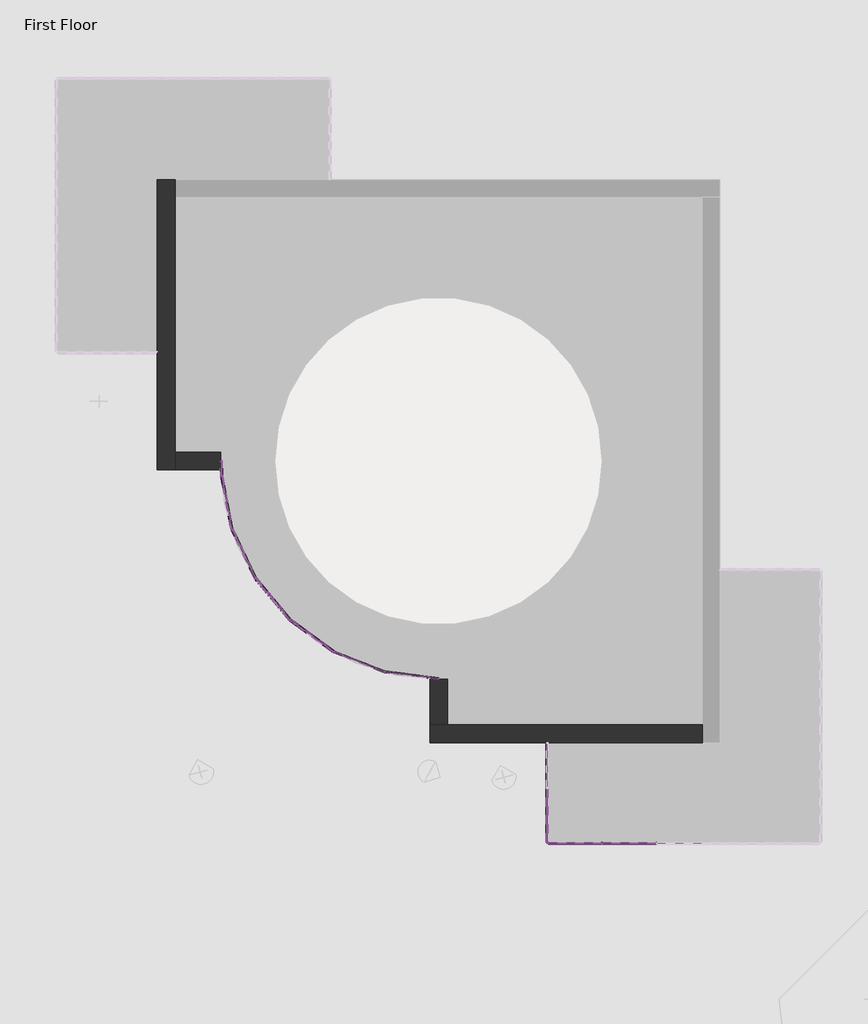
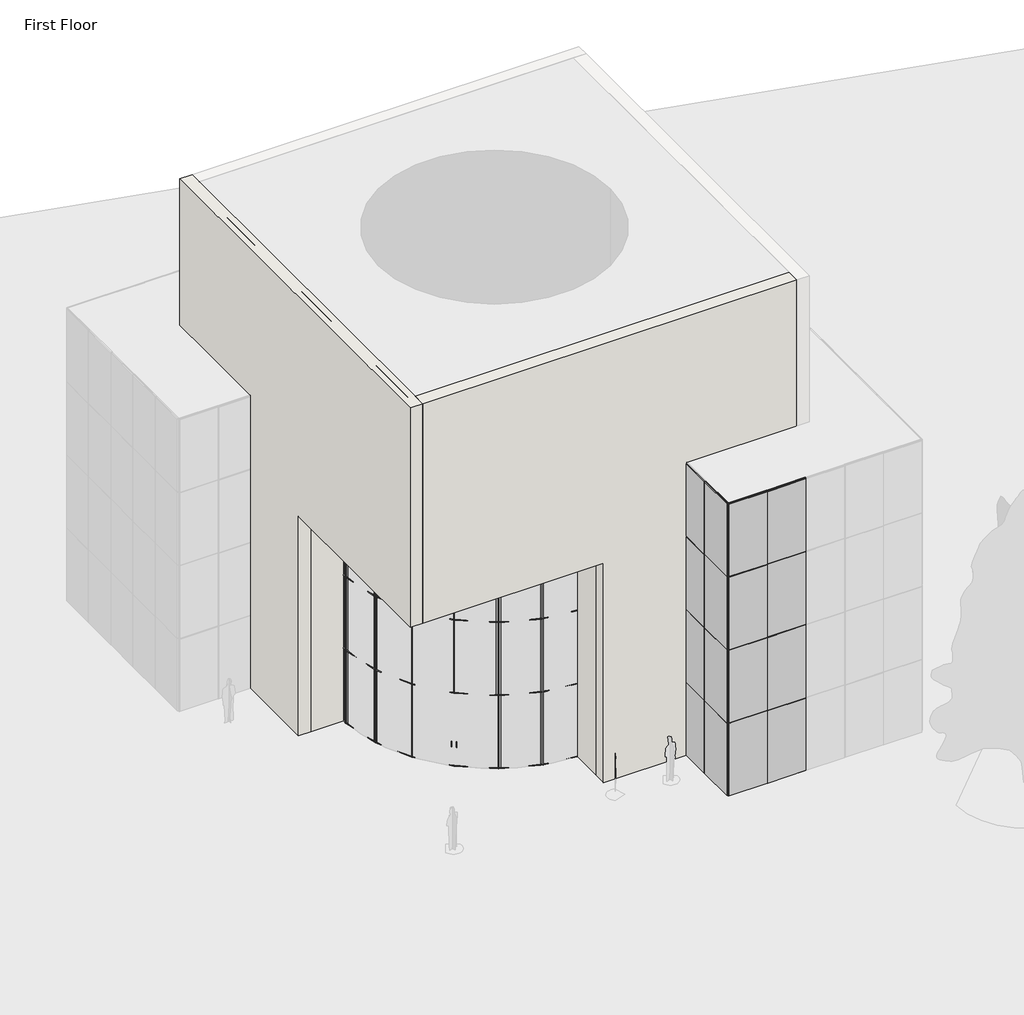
# One storey, part 1 of 4: 73 members, 37 plates, 4 walls.
"""IFC4 building model written with IfcOpenShell, lengths in millimetres."""

from ifc_helpers import new_model, si_unit, origin, origin_with_axes, place, context, project, spatial, polyline, outline, extrude, faceted_brep, transform, mapped, element, save
from components import member_5e617a80, member_74941792, member_cbdb9076, member_7e523723, member_9fd3d903, member_6604d1e0, member_427ea564, member_dc7d8ed0, member_50c0a876, member_f831c101, member_4ce38149, member_fef64646, member_b90b2622, member_80103e86, member_985bfe06, member_dfe62b7a, member_7f371842, curtain_wall_sgl_glass_curtain_wall_sgl_glass_fca7f741, curtain_wall_sgl_glass_curtain_wall_sgl_glass_da5bb70a, system_panel_glazed_9b7d687a, system_panel_glazed_9a901b4a, system_panel_glazed_2d5e1d3d, system_panel_glazed_37964ea6, system_panel_glazed_a669fc9f, system_panel_glazed_51c864c8, system_panel_glazed_64ac1428, system_panel_glazed_4997d7a8, system_panel_glazed_95735f45, system_panel_glazed_2762a518, system_panel_glazed_280dc3c4, system_panel_glazed_176abec3, system_panel_glazed_46fdc408

model = new_model("IFC4")

# Units and contexts
model_context = context("Model", 3, world=origin())
ifc_project = project(units=[si_unit("LENGTHUNIT", "METRE", prefix="MILLI")], contexts=[model_context])

# Site, building, storey
site = spatial("IfcSite", under=ifc_project)
building = spatial("IfcBuilding", under=site)
storey = spatial("IfcBuildingStorey", under=building, Name="First Floor", Elevation=0.0)

# Members
placement = place(None, origin())
member_shape = member_5e617a80(model_context)
element("IfcMember", 1, ObjectType="Rectangular Mullion : 1\" Square", at=placement, inside=storey, context=model_context, shape_type="MappedRepresentation", body=[
    mapped(member_shape, transform((2088.1943843, -11353.9860776, 3048.0), x_axis=(0.0, 0.0, 1.0), y_axis=(0.0, -1.0, 0.0), z_axis=(1.0, 0.0, 0.0))),
])
element("IfcMember", 2, ObjectType="Rectangular Mullion : 1\" Square", at=placement, inside=storey, context=model_context, shape_type="MappedRepresentation", body=[
    mapped(member_shape, transform((2088.1943843, -11353.9860776, 6096.0), x_axis=(0.0, 0.0, 1.0), y_axis=(0.0, -1.0, 0.0), z_axis=(1.0, 0.0, 0.0))),
])
element("IfcMember", 3, ObjectType="Rectangular Mullion : 1\" Square", at=placement, inside=storey, context=model_context, shape_type="MappedRepresentation", body=[
    mapped(member_shape, transform((2088.1943843, -11353.9860776, 9144.0), x_axis=(0.0, 0.0, 1.0), y_axis=(0.0, -1.0, 0.0), z_axis=(1.0, 0.0, 0.0))),
])
member_2_shape = member_74941792(model_context)
element("IfcMember", 4, ObjectType="Rectangular Mullion : 1\" Square", at=placement, inside=storey, context=model_context, shape_type="MappedRepresentation", body=[
    mapped(member_2_shape, transform((2088.1943843, -11353.9860776, 12192.0), x_axis=(0.0, 0.0, 1.0), y_axis=(0.0, -1.0, 0.0), z_axis=(1.0, 0.0, 0.0))),
])
member_3_shape = member_cbdb9076(model_context)
element("IfcMember", 5, ObjectType="Rectangular Mullion : 1\" Square", at=placement, inside=storey, context=model_context, shape_type="MappedRepresentation", body=[
    mapped(member_3_shape, transform((576.8943843, -11350.8110776, 3048.0), x_axis=(0.0, -1.0, 0.0), y_axis=(-1.0, 0.0, 0.0), z_axis=(0.0, 0.0, -1.0))),
])
element("IfcMember", 6, ObjectType="Rectangular Mullion : 1\" Square", at=placement, inside=storey, context=model_context, shape_type="MappedRepresentation", body=[
    mapped(member_3_shape, transform((576.8943843, -11350.8110776, 6096.0), x_axis=(0.0, -1.0, 0.0), y_axis=(-1.0, 0.0, 0.0), z_axis=(0.0, 0.0, -1.0))),
])
element("IfcMember", 7, ObjectType="Rectangular Mullion : 1\" Square", at=placement, inside=storey, context=model_context, shape_type="MappedRepresentation", body=[
    mapped(member_3_shape, transform((2100.8943843, -11353.9860776, 3048.0), x_axis=(1.0, 0.0, 0.0), y_axis=(0.0, -1.0, 0.0), z_axis=(0.0, 0.0, -1.0))),
])
element("IfcMember", 8, ObjectType="Rectangular Mullion : 1\" Square", at=placement, inside=storey, context=model_context, shape_type="MappedRepresentation", body=[
    mapped(member_3_shape, transform((2100.8943843, -11353.9860776, 6096.0), x_axis=(1.0, 0.0, 0.0), y_axis=(0.0, -1.0, 0.0), z_axis=(0.0, 0.0, -1.0))),
])
element("IfcMember", 9, ObjectType="Rectangular Mullion : 1\" Square", at=placement, inside=storey, context=model_context, shape_type="MappedRepresentation", body=[
    mapped(member_3_shape, transform((3624.8943843, -11353.9860776, 3048.0), x_axis=(1.0, 0.0, 0.0), y_axis=(0.0, -1.0, 0.0), z_axis=(0.0, 0.0, -1.0))),
])
element("IfcMember", 10, ObjectType="Rectangular Mullion : 1\" Square", at=placement, inside=storey, context=model_context, shape_type="MappedRepresentation", body=[
    mapped(member_3_shape, transform((3624.8943843, -11353.9860776, 6096.0), x_axis=(1.0, 0.0, 0.0), y_axis=(0.0, -1.0, 0.0), z_axis=(0.0, 0.0, -1.0))),
])
element("IfcMember", 11, ObjectType="Rectangular Mullion : 1\" Square", at=placement, inside=storey, context=model_context, shape_type="MappedRepresentation", body=[
    mapped(member_3_shape, transform((-8553.4843812, -1093.2753523, 3048.0), x_axis=(-0.06681254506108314, 0.9977655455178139, 0.0), y_axis=(0.9977655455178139, 0.06681254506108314, 0.0), z_axis=(0.0, 0.0, -1.0))),
])
element("IfcMember", 12, ObjectType="Rectangular Mullion : 1\" Square", at=placement, inside=storey, context=model_context, shape_type="MappedRepresentation", body=[
    mapped(member_3_shape, transform((-8262.3863448, -2589.2158368, 3048.0), x_axis=(-0.3122096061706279, 0.9500132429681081, 0.0), y_axis=(0.9500132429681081, 0.3122096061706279, 0.0), z_axis=(0.0, 0.0, -1.0))),
])
element("IfcMember", 13, ObjectType="Rectangular Mullion : 1\" Square", at=placement, inside=storey, context=model_context, shape_type="MappedRepresentation", body=[
    mapped(member_3_shape, transform((-7609.3332629, -3966.2044614, 3048.0), x_axis=(-0.5380935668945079, 0.8428851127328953, 0.0), y_axis=(0.8428851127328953, 0.5380935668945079, 0.0), z_axis=(0.0, 0.0, -1.0))),
])
element("IfcMember", 14, ObjectType="Rectangular Mullion : 1\" Square", at=placement, inside=storey, context=model_context, shape_type="MappedRepresentation", body=[
    mapped(member_3_shape, transform((-5400.6964346, -6031.8923276, 3048.0), x_axis=(-0.876953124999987, 0.4805759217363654, 0.0), y_axis=(0.4805759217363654, 0.876953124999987, 0.0), z_axis=(0.0, 0.0, -1.0))),
])
element("IfcMember", 15, ObjectType="Rectangular Mullion : 1\" Square", at=placement, inside=storey, context=model_context, shape_type="MappedRepresentation", body=[
    mapped(member_3_shape, transform((-3983.15249, -6591.4860776, 3048.0), x_axis=(-0.9687499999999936, 0.2480391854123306, 0.0), y_axis=(0.2480391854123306, 0.9687499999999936, 0.0), z_axis=(0.0, 0.0, -1.0))),
])
element("IfcMember", 16, ObjectType="Rectangular Mullion : 1\" Square", at=placement, inside=storey, context=model_context, shape_type="MappedRepresentation", body=[
    mapped(member_3_shape, transform((576.8943843, -11350.8110776, 9144.0), x_axis=(0.0, -1.0, 0.0), y_axis=(-1.0, 0.0, 0.0), z_axis=(0.0, 0.0, -1.0))),
])
element("IfcMember", 17, ObjectType="Rectangular Mullion : 1\" Square", at=placement, inside=storey, context=model_context, shape_type="MappedRepresentation", body=[
    mapped(member_3_shape, transform((2100.8943843, -11353.9860776, 9144.0), x_axis=(1.0, 0.0, 0.0), y_axis=(0.0, -1.0, 0.0), z_axis=(0.0, 0.0, -1.0))),
])
element("IfcMember", 18, ObjectType="Rectangular Mullion : 1\" Square", at=placement, inside=storey, context=model_context, shape_type="MappedRepresentation", body=[
    mapped(member_3_shape, transform((3624.8943843, -11353.9860776, 9144.0), x_axis=(1.0, 0.0, 0.0), y_axis=(0.0, -1.0, 0.0), z_axis=(0.0, 0.0, -1.0))),
])
element("IfcMember", 19, ObjectType="Rectangular Mullion : 1\" Square", at=placement, inside=storey, context=model_context, shape_type="MappedRepresentation", body=[
    mapped(member_3_shape, transform((576.8943843, -11350.8110776, 0.0), x_axis=(0.0, -1.0, 0.0), y_axis=(-1.0, 0.0, 0.0), z_axis=(0.0, 0.0, -1.0))),
])
element("IfcMember", 20, ObjectType="Rectangular Mullion : 1\" Square", at=placement, inside=storey, context=model_context, shape_type="MappedRepresentation", body=[
    mapped(member_3_shape, transform((2100.8943843, -11353.9860776, 0.0), x_axis=(1.0, 0.0, 0.0), y_axis=(0.0, -1.0, 0.0), z_axis=(0.0, 0.0, -1.0))),
])
element("IfcMember", 21, ObjectType="Rectangular Mullion : 1\" Square", at=placement, inside=storey, context=model_context, shape_type="MappedRepresentation", body=[
    mapped(member_3_shape, transform((3624.8943843, -11353.9860776, 0.0), x_axis=(1.0, 0.0, 0.0), y_axis=(0.0, -1.0, 0.0), z_axis=(0.0, 0.0, -1.0))),
])
element("IfcMember", 22, ObjectType="Rectangular Mullion : 1\" Square", at=placement, inside=storey, context=model_context, shape_type="MappedRepresentation", body=[
    mapped(member_3_shape, transform((-8553.4843812, -1093.2753523, 0.0), x_axis=(-0.06681254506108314, 0.9977655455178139, 0.0), y_axis=(0.9977655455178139, 0.06681254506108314, 0.0), z_axis=(0.0, 0.0, -1.0))),
])
element("IfcMember", 23, ObjectType="Rectangular Mullion : 1\" Square", at=placement, inside=storey, context=model_context, shape_type="MappedRepresentation", body=[
    mapped(member_3_shape, transform((-8262.3863448, -2589.2158368, 0.0), x_axis=(-0.3122096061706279, 0.9500132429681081, 0.0), y_axis=(0.9500132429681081, 0.3122096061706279, 0.0), z_axis=(0.0, 0.0, -1.0))),
])
element("IfcMember", 24, ObjectType="Rectangular Mullion : 1\" Square", at=placement, inside=storey, context=model_context, shape_type="MappedRepresentation", body=[
    mapped(member_3_shape, transform((-7609.3332629, -3966.2044614, 0.0), x_axis=(-0.5380935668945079, 0.8428851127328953, 0.0), y_axis=(0.8428851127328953, 0.5380935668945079, 0.0), z_axis=(0.0, 0.0, -1.0))),
])
element("IfcMember", 25, ObjectType="Rectangular Mullion : 1\" Square", at=placement, inside=storey, context=model_context, shape_type="MappedRepresentation", body=[
    mapped(member_3_shape, transform((-5400.6964346, -6031.8923276, 0.0), x_axis=(-0.876953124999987, 0.4805759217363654, 0.0), y_axis=(0.4805759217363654, 0.876953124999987, 0.0), z_axis=(0.0, 0.0, -1.0))),
])
element("IfcMember", 26, ObjectType="Rectangular Mullion : 1\" Square", at=placement, inside=storey, context=model_context, shape_type="MappedRepresentation", body=[
    mapped(member_3_shape, transform((-3983.15249, -6591.4860776, 0.0), x_axis=(-0.9687499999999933, 0.24803918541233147, 0.0), y_axis=(0.24803918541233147, 0.9687499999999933, 0.0), z_axis=(0.0, 0.0, -1.0))),
])
element("IfcMember", 27, ObjectType="Rectangular Mullion : 1\" Square", at=placement, inside=storey, context=model_context, shape_type="MappedRepresentation", body=[
    mapped(member_2_shape, transform((602.2943843, -11353.9860776, 0.0), x_axis=(0.0, 0.0, -1.0), y_axis=(0.0, -1.0, 0.0), z_axis=(-1.0, 0.0, 0.0))),
])
member_4_shape = member_7e523723(model_context)
element("IfcMember", 28, ObjectType="Rectangular Mullion : 1\" Square", at=placement, inside=storey, context=model_context, shape_type="MappedRepresentation", body=[
    mapped(member_4_shape, transform((576.8943843, -11353.9860776, 12192.0), x_axis=(-1.0, 0.0, 0.0), y_axis=(0.0, -1.0, 0.0), z_axis=(0.0, 0.0, 1.0))),
])
element("IfcMember", 29, ObjectType="Rectangular Mullion : 1\" Square", at=placement, inside=storey, context=model_context, shape_type="MappedRepresentation", body=[
    mapped(member_4_shape, transform((576.8943843, -11353.9860776, 3048.0), x_axis=(-1.0, 0.0, 0.0), y_axis=(0.0, -1.0, 0.0), z_axis=(0.0, 0.0, 1.0))),
])
element("IfcMember", 30, ObjectType="Rectangular Mullion : 1\" Square", at=placement, inside=storey, context=model_context, shape_type="MappedRepresentation", body=[
    mapped(member_4_shape, transform((576.8943843, -11353.9860776, 6096.0), x_axis=(-1.0, 0.0, 0.0), y_axis=(0.0, -1.0, 0.0), z_axis=(0.0, 0.0, 1.0))),
])
element("IfcMember", 31, ObjectType="Rectangular Mullion : 1\" Square", at=placement, inside=storey, context=model_context, shape_type="MappedRepresentation", body=[
    mapped(member_4_shape, transform((576.8943843, -11353.9860776, 9144.0), x_axis=(-1.0, 0.0, 0.0), y_axis=(0.0, -1.0, 0.0), z_axis=(0.0, 0.0, 1.0))),
])
member_5_shape = member_9fd3d903(model_context)
element("IfcMember", 32, ObjectType="Rectangular Mullion : 1\" Square", at=placement, inside=storey, context=model_context, shape_type="MappedRepresentation", body=[
    mapped(member_5_shape, transform((576.8943843, -11338.1110776, 3048.0), x_axis=(0.0, 0.0, 1.0), y_axis=(-1.0, 0.0, 0.0), z_axis=(0.0, -1.0, 0.0))),
])
element("IfcMember", 33, ObjectType="Rectangular Mullion : 1\" Square", at=placement, inside=storey, context=model_context, shape_type="MappedRepresentation", body=[
    mapped(member_5_shape, transform((576.8943843, -11338.1110776, 6096.0), x_axis=(0.0, 0.0, 1.0), y_axis=(-1.0, 0.0, 0.0), z_axis=(0.0, -1.0, 0.0))),
])
element("IfcMember", 34, ObjectType="Rectangular Mullion : 1\" Square", at=placement, inside=storey, context=model_context, shape_type="MappedRepresentation", body=[
    mapped(member_5_shape, transform((576.8943843, -11338.1110776, 9144.0), x_axis=(0.0, 0.0, 1.0), y_axis=(-1.0, 0.0, 0.0), z_axis=(0.0, -1.0, 0.0))),
])
element("IfcMember", 35, ObjectType="Rectangular Mullion : 1\" Square", at=placement, inside=storey, context=model_context, shape_type="MappedRepresentation", body=[
    mapped(member_5_shape, transform((3612.1943843, -11353.9860776, 3048.0), x_axis=(0.0, 0.0, 1.0), y_axis=(0.0, -1.0, 0.0), z_axis=(1.0, 0.0, 0.0))),
])
element("IfcMember", 36, ObjectType="Rectangular Mullion : 1\" Square", at=placement, inside=storey, context=model_context, shape_type="MappedRepresentation", body=[
    mapped(member_5_shape, transform((3612.1943843, -11353.9860776, 6096.0), x_axis=(0.0, 0.0, 1.0), y_axis=(0.0, -1.0, 0.0), z_axis=(1.0, 0.0, 0.0))),
])
element("IfcMember", 37, ObjectType="Rectangular Mullion : 1\" Square", at=placement, inside=storey, context=model_context, shape_type="MappedRepresentation", body=[
    mapped(member_5_shape, transform((3612.1943843, -11353.9860776, 9144.0), x_axis=(0.0, 0.0, 1.0), y_axis=(0.0, -1.0, 0.0), z_axis=(1.0, 0.0, 0.0))),
])
member_6_shape = member_6604d1e0(model_context)
element("IfcMember", 38, ObjectType="Rectangular Mullion : 1\" Square", at=placement, inside=storey, context=model_context, shape_type="MappedRepresentation", body=[
    mapped(member_6_shape, transform((576.8943843, -11338.1110776, 12192.0), x_axis=(0.0, 0.0, 1.0), y_axis=(-1.0, 0.0, 0.0), z_axis=(0.0, -1.0, 0.0))),
])
element("IfcMember", 39, ObjectType="Rectangular Mullion : 1\" Square", at=placement, inside=storey, context=model_context, shape_type="MappedRepresentation", body=[
    mapped(member_6_shape, transform((3612.1943843, -11353.9860776, 12192.0), x_axis=(0.0, 0.0, 1.0), y_axis=(0.0, -1.0, 0.0), z_axis=(1.0, 0.0, 0.0))),
])
element("IfcMember", 40, ObjectType="Rectangular Mullion : 1\" Square", at=placement, inside=storey, context=model_context, shape_type="MappedRepresentation", body=[
    mapped(member_6_shape, transform((2113.5943843, -11353.9860776, 0.0), x_axis=(0.0, 0.0, -1.0), y_axis=(0.0, -1.0, 0.0), z_axis=(-1.0, 0.0, 0.0))),
])
element("IfcMember", 41, ObjectType="Rectangular Mullion : 1\" Square", at=placement, inside=storey, context=model_context, shape_type="MappedRepresentation", body=[
    mapped(member_6_shape, transform((3637.5943843, -11353.9860776, 0.0), x_axis=(0.0, 0.0, -1.0), y_axis=(0.0, -1.0, 0.0), z_axis=(-1.0, 0.0, 0.0))),
])
element("IfcMember", 42, ObjectType="Rectangular Mullion : 1\" Square", at=placement, inside=storey, context=model_context, shape_type="MappedRepresentation", body=[
    mapped(member_4_shape, transform((576.8943843, -11353.9860776, 3048.0), x_axis=(0.0, -1.0, 0.0), y_axis=(-1.0, 0.0, 0.0), z_axis=(0.0, 0.0, -1.0))),
])
element("IfcMember", 43, ObjectType="Rectangular Mullion : 1\" Square", at=placement, inside=storey, context=model_context, shape_type="MappedRepresentation", body=[
    mapped(member_4_shape, transform((576.8943843, -11353.9860776, 6096.0), x_axis=(0.0, -1.0, 0.0), y_axis=(-1.0, 0.0, 0.0), z_axis=(0.0, 0.0, -1.0))),
])
element("IfcMember", 44, ObjectType="Rectangular Mullion : 1\" Square", at=placement, inside=storey, context=model_context, shape_type="MappedRepresentation", body=[
    mapped(member_4_shape, transform((576.8943843, -11353.9860776, 9144.0), x_axis=(0.0, -1.0, 0.0), y_axis=(-1.0, 0.0, 0.0), z_axis=(0.0, 0.0, -1.0))),
])
element("IfcMember", 45, ObjectType="Rectangular Mullion : 1\" Square", at=placement, inside=storey, context=model_context, shape_type="MappedRepresentation", body=[
    mapped(member_4_shape, transform((576.8943843, -11353.9860776, 0.0), x_axis=(0.0, -1.0, 0.0), y_axis=(-1.0, 0.0, 0.0), z_axis=(0.0, 0.0, -1.0))),
])
member_7_shape = member_427ea564(model_context)
element("IfcMember", 46, ObjectType="Rectangular Mullion : 1\" Square", at=placement, inside=storey, context=model_context, shape_type="MappedRepresentation", body=[
    mapped(member_7_shape, transform((-7614.7753719, -3954.7295562, 0.0), x_axis=(0.0, 0.0, -1.0), y_axis=(0.903535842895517, 0.42851252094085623, 0.0), z_axis=(0.42851252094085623, -0.903535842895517, 0.0))),
])
element("IfcMember", 47, ObjectType="Rectangular Mullion : 1\" Square", at=placement, inside=storey, context=model_context, shape_type="MappedRepresentation", body=[
    mapped(member_7_shape, transform((-3994.9653562, -6586.8227963, 0.0), x_axis=(0.0, 0.0, -1.0), y_axis=(0.36718750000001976, 0.9301469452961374, 0.0), z_axis=(0.9301469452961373, -0.3671875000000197, 0.0))),
])
element("IfcMember", 48, ObjectType="Rectangular Mullion : 1\" Square", at=placement, inside=storey, context=model_context, shape_type="MappedRepresentation", body=[
    mapped(member_7_shape, transform((-8264.8121618, -2576.7496661, 0.0), x_axis=(0.0, 0.0, -1.0), y_axis=(0.9815882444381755, 0.1910092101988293, 0.0), z_axis=(0.1910092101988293, -0.9815882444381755, 0.0))),
])
member_8_shape = member_dc7d8ed0(model_context)
element("IfcMember", 49, ObjectType="Rectangular Mullion : 1\" Square", at=placement, inside=storey, context=model_context, shape_type="MappedRepresentation", body=[
    mapped(member_8_shape, transform((-6635.1409531, -5138.1794369, 0.0), x_axis=(0.0, 0.0, -1.0), y_axis=(0.7690124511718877, 0.6392337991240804, 0.0), z_axis=(0.6392337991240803, -0.7690124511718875, 0.0))),
])
member_9_shape = member_50c0a876(model_context)
element("IfcMember", 50, ObjectType="Rectangular Mullion : 1\" Square", at=placement, inside=storey, context=model_context, shape_type="MappedRepresentation", body=[
    mapped(member_9_shape, transform((-5410.9834723, -6024.4447202, 0.0), x_axis=(0.0, 0.0, -1.0), y_axis=(0.5864257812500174, 0.8100029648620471, 0.0), z_axis=(0.8100029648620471, -0.5864257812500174, 0.0))),
])
member_10_shape = member_f831c101(model_context)
element("IfcMember", 51, ObjectType="Rectangular Mullion : 1\" Square", at=placement, inside=storey, context=model_context, shape_type="MappedRepresentation", body=[
    mapped(member_10_shape, transform((-2471.1056157, -6781.9860776, 0.0), x_axis=(0.0, 0.0, -1.0), y_axis=(0.12500000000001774, 0.9921567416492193, 0.0), z_axis=(0.9921567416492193, -0.12500000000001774, 0.0))),
])
member_11_shape = member_4ce38149(model_context)
element("IfcMember", 52, ObjectType="Rectangular Mullion : 1\" Square", at=placement, inside=storey, context=model_context, shape_type="MappedRepresentation", body=[
    mapped(member_11_shape, transform((-8553.908878, -1080.5824486, 0.0), x_axis=(0.0, 0.0, -1.0), y_axis=(0.9994412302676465, 0.03342494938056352, 0.0), z_axis=(0.033424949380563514, -0.9994412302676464, 0.0))),
])
member_12_shape = member_fef64646(model_context)
element("IfcMember", 53, ObjectType="Rectangular Mullion : 1\" Square", at=placement, inside=storey, context=model_context, shape_type="MappedRepresentation", body=[
    mapped(member_12_shape, transform((-3970.5520994, -6593.0735776, 3048.0), x_axis=(0.0, 0.0, 1.0), y_axis=(0.12500000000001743, 0.9921567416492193, 0.0), z_axis=(-0.9921567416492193, 0.12500000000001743, 0.0))),
])
element("IfcMember", 54, ObjectType="Rectangular Mullion : 1\" Square", at=placement, inside=storey, context=model_context, shape_type="MappedRepresentation", body=[
    mapped(member_12_shape, transform((-3970.5520994, -6593.0735776, 6096.0), x_axis=(0.0, 0.0, 1.0), y_axis=(0.12500000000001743, 0.9921567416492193, 0.0), z_axis=(-0.9921567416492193, 0.12500000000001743, 0.0))),
])
member_13_shape = member_b90b2622(model_context)
element("IfcMember", 55, ObjectType="Rectangular Mullion : 1\" Square", at=placement, inside=storey, context=model_context, shape_type="MappedRepresentation", body=[
    mapped(member_13_shape, transform((-5388.8835684, -6036.5556088, 3048.0), x_axis=(0.0, 0.0, 1.0), y_axis=(0.36718750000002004, 0.9301469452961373, 0.0), z_axis=(-0.9301469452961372, 0.36718750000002, 0.0))),
])
element("IfcMember", 56, ObjectType="Rectangular Mullion : 1\" Square", at=placement, inside=storey, context=model_context, shape_type="MappedRepresentation", body=[
    mapped(member_13_shape, transform((-8256.9442358, -2600.690742, 3048.0), x_axis=(0.0, 0.0, 1.0), y_axis=(0.9035358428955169, 0.42851252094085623, 0.0), z_axis=(-0.42851252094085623, 0.9035358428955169, 0.0))),
])
element("IfcMember", 57, ObjectType="Rectangular Mullion : 1\" Square", at=placement, inside=storey, context=model_context, shape_type="MappedRepresentation", body=[
    mapped(member_13_shape, transform((-8551.0585642, -1105.741523, 3048.0), x_axis=(0.0, 0.0, 1.0), y_axis=(0.9815882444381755, 0.1910092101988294, 0.0), z_axis=(-0.19100921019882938, 0.9815882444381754, 0.0))),
])
element("IfcMember", 58, ObjectType="Rectangular Mullion : 1\" Square", at=placement, inside=storey, context=model_context, shape_type="MappedRepresentation", body=[
    mapped(member_13_shape, transform((-8256.9442358, -2600.690742, 6096.0), x_axis=(0.0, 0.0, 1.0), y_axis=(0.9035358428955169, 0.42851252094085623, 0.0), z_axis=(-0.42851252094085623, 0.9035358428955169, 0.0))),
])
element("IfcMember", 59, ObjectType="Rectangular Mullion : 1\" Square", at=placement, inside=storey, context=model_context, shape_type="MappedRepresentation", body=[
    mapped(member_13_shape, transform((-8551.0585642, -1105.741523, 6096.0), x_axis=(0.0, 0.0, 1.0), y_axis=(0.9815882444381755, 0.19100921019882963, 0.0), z_axis=(-0.1910092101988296, 0.9815882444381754, 0.0))),
])
element("IfcMember", 60, ObjectType="Rectangular Mullion : 1\" Square", at=placement, inside=storey, context=model_context, shape_type="MappedRepresentation", body=[
    mapped(member_13_shape, transform((-5388.8835684, -6036.5556088, 6096.0), x_axis=(0.0, 0.0, 1.0), y_axis=(0.36718750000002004, 0.9301469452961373, 0.0), z_axis=(-0.9301469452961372, 0.36718750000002, 0.0))),
])
member_14_shape = member_80103e86(model_context)
element("IfcMember", 61, ObjectType="Rectangular Mullion : 1\" Square", at=placement, inside=storey, context=model_context, shape_type="MappedRepresentation", body=[
    mapped(member_14_shape, transform((-8567.1056157, -685.9860776, 3048.0), x_axis=(0.0, 0.0, 1.0), y_axis=(0.9994412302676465, 0.03342494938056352, 0.0), z_axis=(-0.033424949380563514, 0.9994412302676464, 0.0))),
])
element("IfcMember", 62, ObjectType="Rectangular Mullion : 1\" Square", at=placement, inside=storey, context=model_context, shape_type="MappedRepresentation", body=[
    mapped(member_14_shape, transform((-8567.1056157, -685.9860776, 6096.0), x_axis=(0.0, 0.0, 1.0), y_axis=(0.9994412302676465, 0.0334249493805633, 0.0), z_axis=(-0.03342494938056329, 0.9994412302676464, 0.0))),
])
element("IfcMember", 63, ObjectType="Rectangular Mullion : 1\" Square", at=placement, inside=storey, context=model_context, shape_type="MappedRepresentation", body=[
    mapped(member_3_shape, transform((-8553.4843812, -1093.2753523, 6096.0), x_axis=(-0.0668125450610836, 0.9977655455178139, 0.0), y_axis=(0.9977655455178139, 0.0668125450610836, 0.0), z_axis=(0.0, 0.0, -1.0))),
])
element("IfcMember", 64, ObjectType="Rectangular Mullion : 1\" Square", at=placement, inside=storey, context=model_context, shape_type="MappedRepresentation", body=[
    mapped(member_3_shape, transform((-8262.3863448, -2589.2158368, 6096.0), x_axis=(-0.3122096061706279, 0.9500132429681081, 0.0), y_axis=(0.9500132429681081, 0.3122096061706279, 0.0), z_axis=(0.0, 0.0, -1.0))),
])
element("IfcMember", 65, ObjectType="Rectangular Mullion : 1\" Square", at=placement, inside=storey, context=model_context, shape_type="MappedRepresentation", body=[
    mapped(member_3_shape, transform((-7609.3332629, -3966.2044614, 6096.0), x_axis=(-0.5380935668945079, 0.8428851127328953, 0.0), y_axis=(0.8428851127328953, 0.5380935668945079, 0.0), z_axis=(0.0, 0.0, -1.0))),
])
element("IfcMember", 66, ObjectType="Rectangular Mullion : 1\" Square", at=placement, inside=storey, context=model_context, shape_type="MappedRepresentation", body=[
    mapped(member_3_shape, transform((-5400.6964346, -6031.8923276, 6096.0), x_axis=(-0.8769531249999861, 0.48057592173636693, 0.0), y_axis=(0.48057592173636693, 0.8769531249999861, 0.0), z_axis=(0.0, 0.0, -1.0))),
])
element("IfcMember", 67, ObjectType="Rectangular Mullion : 1\" Square", at=placement, inside=storey, context=model_context, shape_type="MappedRepresentation", body=[
    mapped(member_3_shape, transform((-3983.15249, -6591.4860776, 6096.0), x_axis=(-0.9687499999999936, 0.2480391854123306, 0.0), y_axis=(0.2480391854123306, 0.9687499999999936, 0.0), z_axis=(0.0, 0.0, -1.0))),
])
element("IfcMember", 68, ObjectType="Rectangular Mullion : 1\" Square", at=placement, inside=storey, context=model_context, shape_type="MappedRepresentation", body=[
    mapped(member_3_shape, transform((-6635.1409531, -5138.1794369, 6096.0), x_axis=(-0.7303466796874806, 0.6830766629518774, 0.0), y_axis=(0.6830766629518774, 0.7303466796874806, 0.0), z_axis=(0.0, 0.0, -1.0))),
])
element("IfcMember", 69, ObjectType="Rectangular Mullion : 1\" Square", at=placement, inside=storey, context=model_context, shape_type="MappedRepresentation", body=[
    mapped(member_13_shape, transform((-6624.8539154, -5145.6270444, 6096.0), x_axis=(0.0, 0.0, 1.0), y_axis=(0.5864257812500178, 0.8100029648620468, 0.0), z_axis=(-0.8100029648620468, 0.5864257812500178, 0.0))),
])
element("IfcMember", 70, ObjectType="Rectangular Mullion : 1\" Square", at=placement, inside=storey, context=model_context, shape_type="MappedRepresentation", body=[
    mapped(member_13_shape, transform((-7601.2149937, -3975.9709195, 6096.0), x_axis=(0.0, 0.0, 1.0), y_axis=(0.7690124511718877, 0.6392337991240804, 0.0), z_axis=(-0.6392337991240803, 0.7690124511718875, 0.0))),
])
member_15_shape = member_985bfe06(model_context)
element("IfcMember", 71, ObjectType="Rectangular Mullion : 1\" Square", at=placement, inside=storey, context=model_context, shape_type="MappedRepresentation", body=[
    mapped(member_15_shape, transform((-6635.1409531, -5138.1794369, 3035.3), x_axis=(-0.7303466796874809, 0.6830766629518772, 0.0), y_axis=(0.6830766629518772, 0.7303466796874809, 0.0), z_axis=(0.0, 0.0, -1.0))),
])
member_16_shape = member_dfe62b7a(model_context)
element("IfcMember", 72, ObjectType="Rectangular Mullion : 1\" Square", at=placement, inside=storey, context=model_context, shape_type="MappedRepresentation", body=[
    mapped(member_16_shape, transform((-6624.8539154, -5145.6270444, 3048.0), x_axis=(0.0, 0.0, 1.0), y_axis=(0.586425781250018, 0.8100029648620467, 0.0), z_axis=(-0.8100029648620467, 0.586425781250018, 0.0))),
])
member_17_shape = member_7f371842(model_context)
element("IfcMember", 73, ObjectType="Rectangular Mullion : 1\" Square", at=placement, inside=storey, context=model_context, shape_type="MappedRepresentation", body=[
    mapped(member_17_shape, transform((-7601.2149937, -3975.9709195, 3048.0), x_axis=(0.0, 0.0, 1.0), y_axis=(0.7690124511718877, 0.6392337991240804, 0.0), z_axis=(-0.6392337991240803, 0.7690124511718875, 0.0))),
])

# Plates
curtain_wall_sgl_glass_curtain_wall_sgl_glass_shape = curtain_wall_sgl_glass_curtain_wall_sgl_glass_fca7f741(model_context)
element("IfcPlate", 74, ObjectType="Curtain Wall Sgl Glass : Curtain Wall Sgl Glass", at=placement, inside=storey, context=model_context, shape_type="MappedRepresentation", body=[
    mapped(curtain_wall_sgl_glass_curtain_wall_sgl_glass_shape, transform((-6023.0622127, -5581.3120786, 25.4), x_axis=(0.8100029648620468, -0.5864257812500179, 0.0), y_axis=(0.5864257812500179, 0.8100029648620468, 0.0), z_axis=(0.0, 0.0, 1.0))),
])
curtain_wall_sgl_glass_curtain_wall_sgl_glass_2_shape = curtain_wall_sgl_glass_curtain_wall_sgl_glass_da5bb70a(model_context)
element("IfcPlate", 75, ObjectType="Curtain Wall Sgl Glass : Curtain Wall Sgl Glass", at=placement, inside=storey, context=model_context, shape_type="MappedRepresentation", body=[
    mapped(curtain_wall_sgl_glass_curtain_wall_sgl_glass_2_shape, transform((-7118.1779734, -4557.0751782, 25.4), x_axis=(-0.6392337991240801, 0.7690124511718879, 0.0), y_axis=(-0.7690124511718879, -0.6392337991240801, 0.0), z_axis=(0.0, 0.0, 1.0))),
])
system_panel_glazed_shape = system_panel_glazed_9b7d687a(model_context)
element("IfcPlate", 76, ObjectType="System Panel : Glazed", at=placement, inside=storey, context=model_context, shape_type="MappedRepresentation", body=[
    mapped(system_panel_glazed_shape, transform((1345.2443843, -11353.9860776, 25.4), x_axis=(1.0, 0.0, 0.0), y_axis=(0.0, 1.0, 0.0), z_axis=(0.0, 0.0, 1.0))),
])
element("IfcPlate", 77, ObjectType="System Panel : Glazed", at=placement, inside=storey, context=model_context, shape_type="MappedRepresentation", body=[
    mapped(system_panel_glazed_shape, transform((1345.2443843, -11353.9860776, 9156.7), x_axis=(1.0, 0.0, 0.0), y_axis=(0.0, 1.0, 0.0), z_axis=(0.0, 0.0, 1.0))),
])
system_panel_glazed_2_shape = system_panel_glazed_9a901b4a(model_context)
element("IfcPlate", 78, ObjectType="System Panel : Glazed", at=placement, inside=storey, context=model_context, shape_type="MappedRepresentation", body=[
    mapped(system_panel_glazed_2_shape, transform((1345.2443843, -11353.9860776, 3060.7), x_axis=(1.0, 0.0, 0.0), y_axis=(0.0, 1.0, 0.0), z_axis=(0.0, 0.0, 1.0))),
])
element("IfcPlate", 79, ObjectType="System Panel : Glazed", at=placement, inside=storey, context=model_context, shape_type="MappedRepresentation", body=[
    mapped(system_panel_glazed_2_shape, transform((1345.2443843, -11353.9860776, 6108.7), x_axis=(1.0, 0.0, 0.0), y_axis=(0.0, 1.0, 0.0), z_axis=(0.0, 0.0, 1.0))),
])
system_panel_glazed_3_shape = system_panel_glazed_2d5e1d3d(model_context)
element("IfcPlate", 80, ObjectType="System Panel : Glazed", at=placement, inside=storey, context=model_context, shape_type="MappedRepresentation", body=[
    mapped(system_panel_glazed_3_shape, transform((2862.8943843, -11353.9860776, 25.4), x_axis=(1.0, 0.0, 0.0), y_axis=(0.0, 1.0, 0.0), z_axis=(0.0, 0.0, 1.0))),
])
element("IfcPlate", 81, ObjectType="System Panel : Glazed", at=placement, inside=storey, context=model_context, shape_type="MappedRepresentation", body=[
    mapped(system_panel_glazed_3_shape, transform((2862.8943843, -11353.9860776, 9156.7), x_axis=(1.0, 0.0, 0.0), y_axis=(0.0, 1.0, 0.0), z_axis=(0.0, 0.0, 1.0))),
])
element("IfcPlate", 82, ObjectType="System Panel : Glazed", at=placement, inside=storey, context=model_context, shape_type="MappedRepresentation", body=[
    mapped(system_panel_glazed_3_shape, transform((576.8943843, -10588.8110776, 25.4), x_axis=(0.0, -1.0, 0.0), y_axis=(1.0, 0.0, 0.0), z_axis=(0.0, 0.0, 1.0))),
])
element("IfcPlate", 83, ObjectType="System Panel : Glazed", at=placement, inside=storey, context=model_context, shape_type="MappedRepresentation", body=[
    mapped(system_panel_glazed_3_shape, transform((576.8943843, -10588.8110776, 9156.7), x_axis=(0.0, -1.0, 0.0), y_axis=(1.0, 0.0, 0.0), z_axis=(0.0, 0.0, 1.0))),
])
element("IfcPlate", 84, ObjectType="System Panel : Glazed", at=placement, inside=storey, context=model_context, shape_type="MappedRepresentation", body=[
    mapped(system_panel_glazed_3_shape, transform((-4691.9244623, -6311.6892026, 25.4), x_axis=(-0.9301469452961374, 0.36718750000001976, 0.0), y_axis=(-0.36718750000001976, -0.9301469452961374, 0.0), z_axis=(0.0, 0.0, 1.0))),
])
element("IfcPlate", 85, ObjectType="System Panel : Glazed", at=placement, inside=storey, context=model_context, shape_type="MappedRepresentation", body=[
    mapped(system_panel_glazed_3_shape, transform((-7935.8598039, -3277.7101491, 25.4), x_axis=(-0.42851252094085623, 0.903535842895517, 0.0), y_axis=(-0.903535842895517, -0.42851252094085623, 0.0), z_axis=(0.0, 0.0, 1.0))),
])
element("IfcPlate", 86, ObjectType="System Panel : Glazed", at=placement, inside=storey, context=model_context, shape_type="MappedRepresentation", body=[
    mapped(system_panel_glazed_3_shape, transform((-8407.935363, -1841.2455945, 25.4), x_axis=(-0.19100921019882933, 0.9815882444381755, 0.0), y_axis=(-0.9815882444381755, -0.19100921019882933, 0.0), z_axis=(0.0, 0.0, 1.0))),
])
system_panel_glazed_4_shape = system_panel_glazed_37964ea6(model_context)
element("IfcPlate", 87, ObjectType="System Panel : Glazed", at=placement, inside=storey, context=model_context, shape_type="MappedRepresentation", body=[
    mapped(system_panel_glazed_4_shape, transform((2862.8943843, -11353.9860776, 3060.7), x_axis=(1.0, 0.0, 0.0), y_axis=(0.0, 1.0, 0.0), z_axis=(0.0, 0.0, 1.0))),
])
element("IfcPlate", 88, ObjectType="System Panel : Glazed", at=placement, inside=storey, context=model_context, shape_type="MappedRepresentation", body=[
    mapped(system_panel_glazed_4_shape, transform((2862.8943843, -11353.9860776, 6108.7), x_axis=(1.0, 0.0, 0.0), y_axis=(0.0, 1.0, 0.0), z_axis=(0.0, 0.0, 1.0))),
])
element("IfcPlate", 89, ObjectType="System Panel : Glazed", at=placement, inside=storey, context=model_context, shape_type="MappedRepresentation", body=[
    mapped(system_panel_glazed_4_shape, transform((576.8943843, -10588.8110776, 3060.7), x_axis=(0.0, -1.0, 0.0), y_axis=(1.0, 0.0, 0.0), z_axis=(0.0, 0.0, 1.0))),
])
element("IfcPlate", 90, ObjectType="System Panel : Glazed", at=placement, inside=storey, context=model_context, shape_type="MappedRepresentation", body=[
    mapped(system_panel_glazed_4_shape, transform((576.8943843, -10588.8110776, 6108.7), x_axis=(0.0, -1.0, 0.0), y_axis=(1.0, 0.0, 0.0), z_axis=(0.0, 0.0, 1.0))),
])
element("IfcPlate", 91, ObjectType="System Panel : Glazed", at=placement, inside=storey, context=model_context, shape_type="MappedRepresentation", body=[
    mapped(system_panel_glazed_4_shape, transform((-4691.9244623, -6311.6892026, 3060.7), x_axis=(-0.9301469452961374, 0.36718750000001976, 0.0), y_axis=(-0.36718750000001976, -0.9301469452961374, 0.0), z_axis=(0.0, 0.0, 1.0))),
])
element("IfcPlate", 92, ObjectType="System Panel : Glazed", at=placement, inside=storey, context=model_context, shape_type="MappedRepresentation", body=[
    mapped(system_panel_glazed_4_shape, transform((-6017.9186938, -5585.0358823, 3060.7), x_axis=(-0.8100029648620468, 0.5864257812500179, 0.0), y_axis=(-0.5864257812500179, -0.8100029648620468, 0.0), z_axis=(0.0, 0.0, 1.0))),
])
element("IfcPlate", 93, ObjectType="System Panel : Glazed", at=placement, inside=storey, context=model_context, shape_type="MappedRepresentation", body=[
    mapped(system_panel_glazed_4_shape, transform((-7122.237108, -4552.1919492, 3060.7), x_axis=(-0.6392337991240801, 0.7690124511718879, 0.0), y_axis=(-0.7690124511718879, -0.6392337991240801, 0.0), z_axis=(0.0, 0.0, 1.0))),
])
element("IfcPlate", 94, ObjectType="System Panel : Glazed", at=placement, inside=storey, context=model_context, shape_type="MappedRepresentation", body=[
    mapped(system_panel_glazed_4_shape, transform((-7935.8598039, -3277.7101491, 3060.7), x_axis=(-0.42851252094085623, 0.903535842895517, 0.0), y_axis=(-0.903535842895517, -0.42851252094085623, 0.0), z_axis=(0.0, 0.0, 1.0))),
])
element("IfcPlate", 95, ObjectType="System Panel : Glazed", at=placement, inside=storey, context=model_context, shape_type="MappedRepresentation", body=[
    mapped(system_panel_glazed_4_shape, transform((-8407.935363, -1841.2455945, 3060.7), x_axis=(-0.19100921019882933, 0.9815882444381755, 0.0), y_axis=(-0.9815882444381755, -0.19100921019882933, 0.0), z_axis=(0.0, 0.0, 1.0))),
])
system_panel_glazed_5_shape = system_panel_glazed_a669fc9f(model_context)
element("IfcPlate", 96, ObjectType="System Panel : Glazed", at=placement, inside=storey, context=model_context, shape_type="MappedRepresentation", body=[
    mapped(system_panel_glazed_5_shape, transform((576.8943843, -9194.9860776, 25.4), x_axis=(0.0, -1.0, 0.0), y_axis=(1.0, 0.0, 0.0), z_axis=(0.0, 0.0, 1.0))),
])
element("IfcPlate", 97, ObjectType="System Panel : Glazed", at=placement, inside=storey, context=model_context, shape_type="MappedRepresentation", body=[
    mapped(system_panel_glazed_5_shape, transform((576.8943843, -9194.9860776, 9156.7), x_axis=(0.0, -1.0, 0.0), y_axis=(1.0, 0.0, 0.0), z_axis=(0.0, 0.0, 1.0))),
])
system_panel_glazed_6_shape = system_panel_glazed_51c864c8(model_context)
element("IfcPlate", 98, ObjectType="System Panel : Glazed", at=placement, inside=storey, context=model_context, shape_type="MappedRepresentation", body=[
    mapped(system_panel_glazed_6_shape, transform((576.8943843, -9194.9860776, 3060.7), x_axis=(0.0, -1.0, 0.0), y_axis=(1.0, 0.0, 0.0), z_axis=(0.0, 0.0, 1.0))),
])
element("IfcPlate", 99, ObjectType="System Panel : Glazed", at=placement, inside=storey, context=model_context, shape_type="MappedRepresentation", body=[
    mapped(system_panel_glazed_6_shape, transform((576.8943843, -9194.9860776, 6108.7), x_axis=(0.0, -1.0, 0.0), y_axis=(1.0, 0.0, 0.0), z_axis=(0.0, 0.0, 1.0))),
])
system_panel_glazed_7_shape = system_panel_glazed_64ac1428(model_context)
element("IfcPlate", 100, ObjectType="System Panel : Glazed", at=placement, inside=storey, context=model_context, shape_type="MappedRepresentation", body=[
    mapped(system_panel_glazed_7_shape, transform((-3220.8288575, -6687.5298276, 25.4), x_axis=(-0.9921567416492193, 0.12500000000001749, 0.0), y_axis=(-0.12500000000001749, -0.9921567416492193, 0.0), z_axis=(0.0, 0.0, 1.0))),
])
system_panel_glazed_8_shape = system_panel_glazed_4997d7a8(model_context)
element("IfcPlate", 101, ObjectType="System Panel : Glazed", at=placement, inside=storey, context=model_context, shape_type="MappedRepresentation", body=[
    mapped(system_panel_glazed_8_shape, transform((-8560.5072469, -883.2842631, 25.4), x_axis=(-0.03342494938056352, 0.9994412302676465, 0.0), y_axis=(-0.9994412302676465, -0.03342494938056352, 0.0), z_axis=(0.0, 0.0, 1.0))),
])
system_panel_glazed_9_shape = system_panel_glazed_95735f45(model_context)
element("IfcPlate", 102, ObjectType="System Panel : Glazed", at=placement, inside=storey, context=model_context, shape_type="MappedRepresentation", body=[
    mapped(system_panel_glazed_9_shape, transform((-3220.8288575, -6687.5298276, 6108.7), x_axis=(-0.9921567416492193, 0.12500000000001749, 0.0), y_axis=(-0.12500000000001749, -0.9921567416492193, 0.0), z_axis=(0.0, 0.0, 1.0))),
])
system_panel_glazed_10_shape = system_panel_glazed_2762a518(model_context)
element("IfcPlate", 103, ObjectType="System Panel : Glazed", at=placement, inside=storey, context=model_context, shape_type="MappedRepresentation", body=[
    mapped(system_panel_glazed_10_shape, transform((-4691.9244623, -6311.6892026, 6108.7), x_axis=(-0.9301469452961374, 0.36718750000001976, 0.0), y_axis=(-0.36718750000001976, -0.9301469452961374, 0.0), z_axis=(0.0, 0.0, 1.0))),
])
element("IfcPlate", 104, ObjectType="System Panel : Glazed", at=placement, inside=storey, context=model_context, shape_type="MappedRepresentation", body=[
    mapped(system_panel_glazed_10_shape, transform((-6017.9186938, -5585.0358823, 6108.7), x_axis=(-0.8100029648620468, 0.5864257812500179, 0.0), y_axis=(-0.5864257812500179, -0.8100029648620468, 0.0), z_axis=(0.0, 0.0, 1.0))),
])
element("IfcPlate", 105, ObjectType="System Panel : Glazed", at=placement, inside=storey, context=model_context, shape_type="MappedRepresentation", body=[
    mapped(system_panel_glazed_10_shape, transform((-7122.237108, -4552.1919492, 6108.7), x_axis=(-0.6392337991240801, 0.7690124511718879, 0.0), y_axis=(-0.7690124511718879, -0.6392337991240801, 0.0), z_axis=(0.0, 0.0, 1.0))),
])
element("IfcPlate", 106, ObjectType="System Panel : Glazed", at=placement, inside=storey, context=model_context, shape_type="MappedRepresentation", body=[
    mapped(system_panel_glazed_10_shape, transform((-7935.8598039, -3277.7101491, 6108.7), x_axis=(-0.42851252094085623, 0.903535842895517, 0.0), y_axis=(-0.903535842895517, -0.42851252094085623, 0.0), z_axis=(0.0, 0.0, 1.0))),
])
element("IfcPlate", 107, ObjectType="System Panel : Glazed", at=placement, inside=storey, context=model_context, shape_type="MappedRepresentation", body=[
    mapped(system_panel_glazed_10_shape, transform((-8407.935363, -1841.2455945, 6108.7), x_axis=(-0.19100921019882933, 0.9815882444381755, 0.0), y_axis=(-0.9815882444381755, -0.19100921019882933, 0.0), z_axis=(0.0, 0.0, 1.0))),
])
system_panel_glazed_11_shape = system_panel_glazed_280dc3c4(model_context)
element("IfcPlate", 108, ObjectType="System Panel : Glazed", at=placement, inside=storey, context=model_context, shape_type="MappedRepresentation", body=[
    mapped(system_panel_glazed_11_shape, transform((-8560.5072469, -883.2842631, 6108.7), x_axis=(-0.03342494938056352, 0.9994412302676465, 0.0), y_axis=(-0.9994412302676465, -0.03342494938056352, 0.0), z_axis=(0.0, 0.0, 1.0))),
])
system_panel_glazed_12_shape = system_panel_glazed_176abec3(model_context)
element("IfcPlate", 109, ObjectType="System Panel : Glazed", at=placement, inside=storey, context=model_context, shape_type="MappedRepresentation", body=[
    mapped(system_panel_glazed_12_shape, transform((-3220.8288575, -6687.5298276, 3060.7), x_axis=(-0.9921567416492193, 0.12500000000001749, 0.0), y_axis=(-0.12500000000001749, -0.9921567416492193, 0.0), z_axis=(0.0, 0.0, 1.0))),
])
system_panel_glazed_13_shape = system_panel_glazed_46fdc408(model_context)
element("IfcPlate", 110, ObjectType="System Panel : Glazed", at=placement, inside=storey, context=model_context, shape_type="MappedRepresentation", body=[
    mapped(system_panel_glazed_13_shape, transform((-8560.5072469, -883.2842631, 3060.7), x_axis=(-0.03342494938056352, 0.9994412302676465, 0.0), y_axis=(-0.9994412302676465, -0.03342494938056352, 0.0), z_axis=(0.0, 0.0, 1.0))),
])

# Walls
element("IfcWall", 111, ObjectType="Exterior - Brick on CMU", at=placement, inside=storey, context=model_context, shape_type="Brep", body=[
    faceted_brep([(-10335.5806157, 7178.4889224, 18288.0), (-10335.5806157, 7178.4889224, 0.0), (-10335.5806157, -930.4610776, 0.0), (-10335.5806157, -930.4610776, 9144.0), (-10335.5806157, -8550.4610776, 9144.0), (-10335.5806157, -8550.4610776, 18288.0), (-9840.2806157, 7178.4889224, 18288.0), (-9840.2806157, 6683.1889224, 18288.0), (-9840.2806157, -8055.1610776, 18288.0), (-9840.2806157, -8550.4610776, 18288.0), (-9840.2806157, -8550.4610776, 9144.0), (-9840.2806157, -8055.1610776, 9144.0), (-9840.2806157, -930.4610776, 9144.0), (-9840.2806157, -930.4610776, 0.0), (-9840.2806157, -435.1610776, 0.0), (-9840.2806157, 6683.1889224, 0.0), (-9840.2806157, 7178.4889224, 0.0)], [[[0, 1, 2, 3, 4, 5]], [[6, 7, 8, 9, 10, 11, 12, 13, 14, 15, 16]], [[2, 1, 16, 15, 14, 13]], [[4, 3, 12, 11, 10]], [[0, 5, 9, 8, 7, 6]], [[1, 0, 6, 16]], [[5, 4, 10, 9]], [[3, 2, 13, 12]]]),
])
element("IfcWall", 112, ObjectType="Exterior - Brick on CMU", at=placement, inside=storey, context=model_context, shape_type="Brep", body=[
    faceted_brep([(-9840.2806157, -8550.4610776, 18288.0), (-9840.2806157, -8550.4610776, 9144.0), (-2715.5806157, -8550.4610776, 9144.0), (-2715.5806157, -8550.4610776, 0.0), (4898.0693843, -8550.4610776, 0.0), (4898.0693843, -8550.4610776, 18288.0), (-9840.2806157, -8055.1610776, 18288.0), (4898.0693843, -8055.1610776, 18288.0), (4898.0693843, -8055.1610776, 0.0), (-2220.2806157, -8055.1610776, 0.0), (-2715.5806157, -8055.1610776, 0.0), (-2715.5806157, -8055.1610776, 9144.0), (-9840.2806157, -8055.1610776, 9144.0)], [[[0, 1, 2, 3, 4, 5]], [[6, 7, 8, 9, 10, 11, 12]], [[2, 1, 12, 11]], [[4, 3, 10, 9, 8]], [[0, 5, 7, 6]], [[1, 0, 6, 12]], [[5, 4, 8, 7]], [[3, 2, 11, 10]]]),
])
element("IfcWall", 113, ObjectType="Exterior - Brick on CMU", at=placement, inside=storey, context=model_context, shape_type="SweptSolid", body=[
    extrude(outline(polyline([(-9840.2806157, -435.1610776), (-8567.1056157, -435.1610776), (-8567.1056157, -930.4610776), (-9840.2806157, -930.4610776), (-9840.2806157, -435.1610776)])), origin_with_axes(), (0.0, 0.0, 1.0), 9144.0),
])
element("IfcWall", 114, ObjectType="Exterior - Brick on CMU", at=placement, inside=storey, context=model_context, shape_type="SweptSolid", body=[
    extrude(outline(polyline([(-2220.2806157, -6781.9860776), (-2220.2806157, -8055.1610776), (-2715.5806157, -8055.1610776), (-2715.5806157, -6781.9860776), (-2220.2806157, -6781.9860776)])), origin_with_axes(), (0.0, 0.0, 1.0), 9144.0),
])

save(model, "model.ifc")
